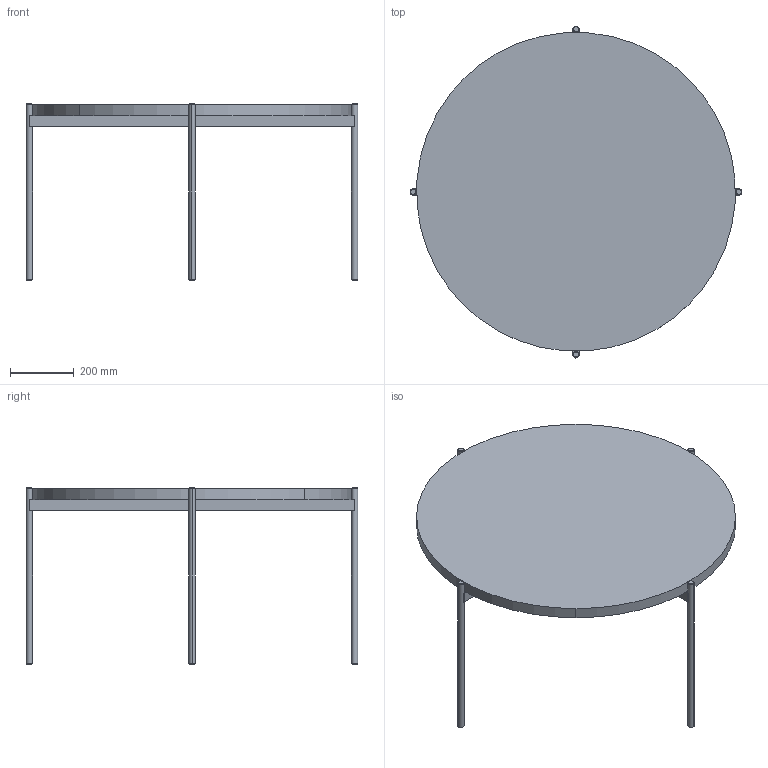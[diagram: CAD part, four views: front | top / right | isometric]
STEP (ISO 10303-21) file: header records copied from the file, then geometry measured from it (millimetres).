
FILE_DESCRIPTION(/* description */ (''),/* implementation_level */ '2;1');
FILE_NAME(/* name */ 'D3P0O9~Y',/* time_stamp */ '2022-08-18T08:05:27+02:00',/* author */ (''),/* organization */ (''),/* preprocessor_version */ 'ST-DEVELOPER v16.5',/* originating_system */ '',/* authorisation */ '');
FILE_SCHEMA (('AUTOMOTIVE_DESIGN'));
Length unit declared in the file: millimetre
Products named in the file (1): Document
Bounding box: 1040 x 1040 x 552 mm (x, y, z)
Volume: 29680924.6 mm3; surface area: 2051134.6 mm2
Topology: 7 solids, 7 shells, 48 faces, 87 edges, 53 vertices
Faces by surface type: bspline 26, plane 22
Entity records: 1289 total; most frequent: CARTESIAN_POINT 626, ORIENTED_EDGE 172, EDGE_CURVE 86, VERTEX_POINT 52, ADVANCED_FACE 48, FACE_OUTER_BOUND 48, EDGE_LOOP 48, B_SPLINE_CURVE_WITH_KNOTS 44
